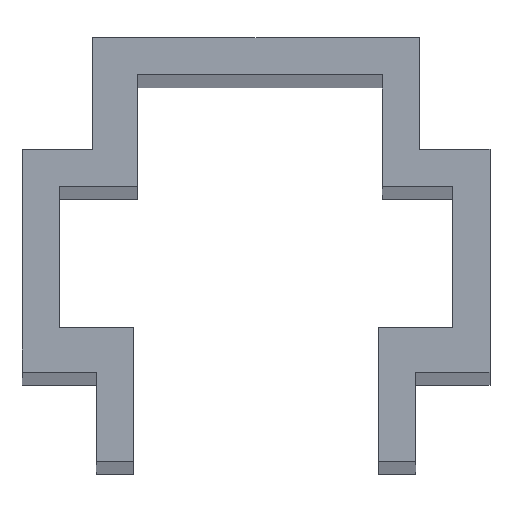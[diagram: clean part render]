
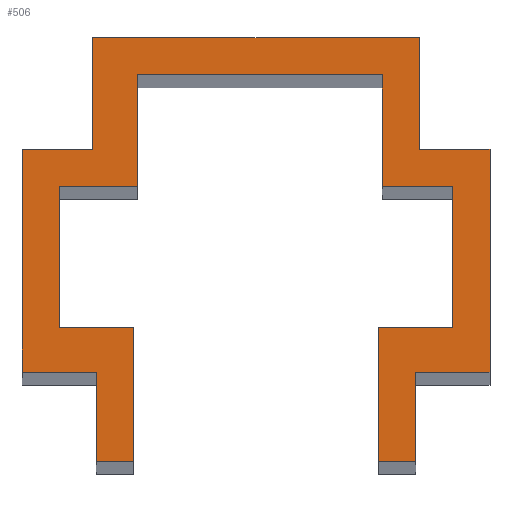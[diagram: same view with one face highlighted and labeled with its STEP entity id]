
A CAD part, top view. The second image highlights one B-rep face of the part: STEP entity #506.
In plain terms, the highlighted planar face has unit normal (0, 0, 1).
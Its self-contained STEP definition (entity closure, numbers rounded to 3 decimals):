
#20=ORIENTED_EDGE('',*,*,#164,.F.);
#21=ORIENTED_EDGE('',*,*,#165,.F.);
#22=ORIENTED_EDGE('',*,*,#166,.F.);
#23=ORIENTED_EDGE('',*,*,#167,.F.);
#24=ORIENTED_EDGE('',*,*,#168,.F.);
#25=ORIENTED_EDGE('',*,*,#169,.F.);
#26=ORIENTED_EDGE('',*,*,#170,.F.);
#27=ORIENTED_EDGE('',*,*,#171,.F.);
#28=ORIENTED_EDGE('',*,*,#172,.F.);
#29=ORIENTED_EDGE('',*,*,#173,.F.);
#30=ORIENTED_EDGE('',*,*,#174,.F.);
#31=ORIENTED_EDGE('',*,*,#175,.F.);
#32=ORIENTED_EDGE('',*,*,#176,.F.);
#33=ORIENTED_EDGE('',*,*,#177,.F.);
#34=ORIENTED_EDGE('',*,*,#178,.F.);
#35=ORIENTED_EDGE('',*,*,#179,.F.);
#36=ORIENTED_EDGE('',*,*,#180,.F.);
#37=ORIENTED_EDGE('',*,*,#181,.F.);
#38=ORIENTED_EDGE('',*,*,#182,.F.);
#39=ORIENTED_EDGE('',*,*,#183,.F.);
#40=ORIENTED_EDGE('',*,*,#184,.F.);
#41=ORIENTED_EDGE('',*,*,#185,.F.);
#42=ORIENTED_EDGE('',*,*,#186,.F.);
#43=ORIENTED_EDGE('',*,*,#187,.F.);
#164=EDGE_CURVE('',#236,#237,#284,.T.);
#165=EDGE_CURVE('',#238,#236,#285,.T.);
#166=EDGE_CURVE('',#239,#238,#286,.T.);
#167=EDGE_CURVE('',#240,#239,#287,.T.);
#168=EDGE_CURVE('',#241,#240,#288,.T.);
#169=EDGE_CURVE('',#242,#241,#289,.T.);
#170=EDGE_CURVE('',#243,#242,#290,.T.);
#171=EDGE_CURVE('',#244,#243,#291,.T.);
#172=EDGE_CURVE('',#245,#244,#292,.T.);
#173=EDGE_CURVE('',#246,#245,#293,.T.);
#174=EDGE_CURVE('',#247,#246,#294,.T.);
#175=EDGE_CURVE('',#248,#247,#295,.T.);
#176=EDGE_CURVE('',#249,#248,#296,.T.);
#177=EDGE_CURVE('',#250,#249,#297,.T.);
#178=EDGE_CURVE('',#251,#250,#298,.T.);
#179=EDGE_CURVE('',#252,#251,#299,.T.);
#180=EDGE_CURVE('',#253,#252,#300,.T.);
#181=EDGE_CURVE('',#254,#253,#301,.T.);
#182=EDGE_CURVE('',#255,#254,#302,.T.);
#183=EDGE_CURVE('',#256,#255,#303,.T.);
#184=EDGE_CURVE('',#257,#256,#304,.T.);
#185=EDGE_CURVE('',#258,#257,#305,.T.);
#186=EDGE_CURVE('',#259,#258,#306,.T.);
#187=EDGE_CURVE('',#237,#259,#307,.T.);
#236=VERTEX_POINT('',#700);
#237=VERTEX_POINT('',#701);
#238=VERTEX_POINT('',#703);
#239=VERTEX_POINT('',#705);
#240=VERTEX_POINT('',#707);
#241=VERTEX_POINT('',#709);
#242=VERTEX_POINT('',#711);
#243=VERTEX_POINT('',#713);
#244=VERTEX_POINT('',#715);
#245=VERTEX_POINT('',#717);
#246=VERTEX_POINT('',#719);
#247=VERTEX_POINT('',#721);
#248=VERTEX_POINT('',#723);
#249=VERTEX_POINT('',#725);
#250=VERTEX_POINT('',#727);
#251=VERTEX_POINT('',#729);
#252=VERTEX_POINT('',#731);
#253=VERTEX_POINT('',#733);
#254=VERTEX_POINT('',#735);
#255=VERTEX_POINT('',#737);
#256=VERTEX_POINT('',#739);
#257=VERTEX_POINT('',#741);
#258=VERTEX_POINT('',#743);
#259=VERTEX_POINT('',#745);
#284=LINE('',#699,#356);
#285=LINE('',#702,#357);
#286=LINE('',#704,#358);
#287=LINE('',#706,#359);
#288=LINE('',#708,#360);
#289=LINE('',#710,#361);
#290=LINE('',#712,#362);
#291=LINE('',#714,#363);
#292=LINE('',#716,#364);
#293=LINE('',#718,#365);
#294=LINE('',#720,#366);
#295=LINE('',#722,#367);
#296=LINE('',#724,#368);
#297=LINE('',#726,#369);
#298=LINE('',#728,#370);
#299=LINE('',#730,#371);
#300=LINE('',#732,#372);
#301=LINE('',#734,#373);
#302=LINE('',#736,#374);
#303=LINE('',#738,#375);
#304=LINE('',#740,#376);
#305=LINE('',#742,#377);
#306=LINE('',#744,#378);
#307=LINE('',#746,#379);
#356=VECTOR('',#575,1000.);
#357=VECTOR('',#576,1000.);
#358=VECTOR('',#577,1000.);
#359=VECTOR('',#578,1000.);
#360=VECTOR('',#579,1000.);
#361=VECTOR('',#580,1000.);
#362=VECTOR('',#581,1000.);
#363=VECTOR('',#582,1000.);
#364=VECTOR('',#583,1000.);
#365=VECTOR('',#584,1000.);
#366=VECTOR('',#585,1000.);
#367=VECTOR('',#586,1000.);
#368=VECTOR('',#587,1000.);
#369=VECTOR('',#588,1000.);
#370=VECTOR('',#589,1000.);
#371=VECTOR('',#590,1000.);
#372=VECTOR('',#591,1000.);
#373=VECTOR('',#592,1000.);
#374=VECTOR('',#593,1000.);
#375=VECTOR('',#594,1000.);
#376=VECTOR('',#595,1000.);
#377=VECTOR('',#596,1000.);
#378=VECTOR('',#597,1000.);
#379=VECTOR('',#598,1000.);
#428=EDGE_LOOP('',(#20,#21,#22,#23,#24,#25,#26,#27,#28,#29,#30,#31,#32,
#33,#34,#35,#36,#37,#38,#39,#40,#41,#42,#43));
#454=FACE_BOUND('',#428,.T.);
#480=PLANE('',#545);
#506=ADVANCED_FACE('',(#454),#480,.T.);
#545=AXIS2_PLACEMENT_3D('',#698,#573,#574);
#573=DIRECTION('',(0.,0.,1.));
#574=DIRECTION('',(1.,0.,0.));
#575=DIRECTION('',(0.,1.,0.));
#576=DIRECTION('',(-1.,0.,0.));
#577=DIRECTION('',(0.,1.,0.));
#578=DIRECTION('',(-1.,0.,0.));
#579=DIRECTION('',(0.,-1.,0.));
#580=DIRECTION('',(1.,0.,0.));
#581=DIRECTION('',(0.,-1.,0.));
#582=DIRECTION('',(-1.,0.,0.));
#583=DIRECTION('',(0.,-1.,0.));
#584=DIRECTION('',(-1.,0.,0.));
#585=DIRECTION('',(0.,1.,0.));
#586=DIRECTION('',(-1.,0.,0.));
#587=DIRECTION('',(0.,1.,0.));
#588=DIRECTION('',(1.,0.,0.));
#589=DIRECTION('',(0.,1.,0.));
#590=DIRECTION('',(-1.,0.,0.));
#591=DIRECTION('',(0.,-1.,0.));
#592=DIRECTION('',(-1.,0.,0.));
#593=DIRECTION('',(0.,-1.,0.));
#594=DIRECTION('',(1.,0.,0.));
#595=DIRECTION('',(0.,-1.,0.));
#596=DIRECTION('',(1.,0.,0.));
#597=DIRECTION('',(0.,1.,0.));
#598=DIRECTION('',(1.,0.,0.));
#698=CARTESIAN_POINT('',(0.004,-0.212,100.));
#699=CARTESIAN_POINT('',(-3.15,0.781,100.));
#700=CARTESIAN_POINT('',(-3.15,-2.219,100.));
#701=CARTESIAN_POINT('',(-3.15,0.781,100.));
#702=CARTESIAN_POINT('',(-3.15,-2.219,100.));
#703=CARTESIAN_POINT('',(-2.15,-2.219,100.));
#704=CARTESIAN_POINT('',(-2.15,-2.219,100.));
#705=CARTESIAN_POINT('',(-2.15,-3.419,100.));
#706=CARTESIAN_POINT('',(-2.15,-3.419,100.));
#707=CARTESIAN_POINT('',(-1.65,-3.419,100.));
#708=CARTESIAN_POINT('',(-1.65,-3.419,100.));
#709=CARTESIAN_POINT('',(-1.65,-1.619,100.));
#710=CARTESIAN_POINT('',(-1.65,-1.619,100.));
#711=CARTESIAN_POINT('',(-2.65,-1.619,100.));
#712=CARTESIAN_POINT('',(-2.65,-1.619,100.));
#713=CARTESIAN_POINT('',(-2.65,0.281,100.));
#714=CARTESIAN_POINT('',(-2.65,0.281,100.));
#715=CARTESIAN_POINT('',(-1.6,0.281,100.));
#716=CARTESIAN_POINT('',(-1.6,0.281,100.));
#717=CARTESIAN_POINT('',(-1.6,1.781,100.));
#718=CARTESIAN_POINT('',(-1.6,1.781,100.));
#719=CARTESIAN_POINT('',(1.7,1.781,100.));
#720=CARTESIAN_POINT('',(1.7,1.781,100.));
#721=CARTESIAN_POINT('',(1.7,0.281,100.));
#722=CARTESIAN_POINT('',(1.7,0.281,100.));
#723=CARTESIAN_POINT('',(2.65,0.281,100.));
#724=CARTESIAN_POINT('',(2.65,0.281,100.));
#725=CARTESIAN_POINT('',(2.65,-1.619,100.));
#726=CARTESIAN_POINT('',(2.65,-1.619,100.));
#727=CARTESIAN_POINT('',(1.65,-1.619,100.));
#728=CARTESIAN_POINT('',(1.65,-1.619,100.));
#729=CARTESIAN_POINT('',(1.65,-3.419,100.));
#730=CARTESIAN_POINT('',(1.65,-3.419,100.));
#731=CARTESIAN_POINT('',(2.15,-3.419,100.));
#732=CARTESIAN_POINT('',(2.15,-3.419,100.));
#733=CARTESIAN_POINT('',(2.15,-2.219,100.));
#734=CARTESIAN_POINT('',(2.15,-2.219,100.));
#735=CARTESIAN_POINT('',(3.15,-2.219,100.));
#736=CARTESIAN_POINT('',(3.15,-2.219,100.));
#737=CARTESIAN_POINT('',(3.15,0.781,100.));
#738=CARTESIAN_POINT('',(3.15,0.781,100.));
#739=CARTESIAN_POINT('',(2.2,0.781,100.));
#740=CARTESIAN_POINT('',(2.2,0.781,100.));
#741=CARTESIAN_POINT('',(2.2,2.281,100.));
#742=CARTESIAN_POINT('',(2.2,2.281,100.));
#743=CARTESIAN_POINT('',(-2.2,2.281,100.));
#744=CARTESIAN_POINT('',(-2.2,2.281,100.));
#745=CARTESIAN_POINT('',(-2.2,0.781,100.));
#746=CARTESIAN_POINT('',(-2.2,0.781,100.));
